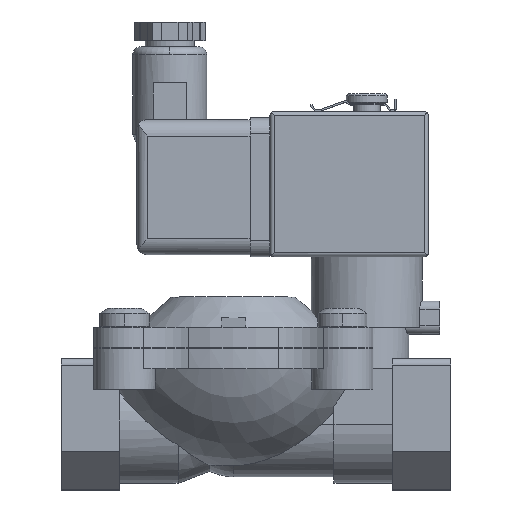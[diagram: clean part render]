
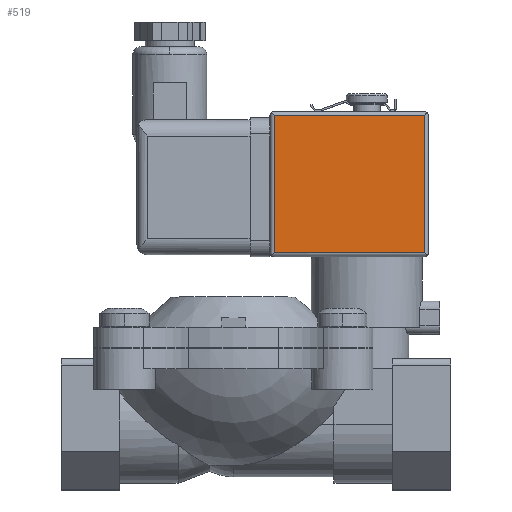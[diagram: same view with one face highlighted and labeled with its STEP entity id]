
A CAD part, top view. The second image highlights one B-rep face of the part: STEP entity #519.
In plain terms, the highlighted planar face has unit normal (0, 0, 1).
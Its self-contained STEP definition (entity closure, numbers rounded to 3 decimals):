
#519=ADVANCED_FACE('',(#1581),#1582,.T.);
#1581=FACE_OUTER_BOUND('',#2823,.T.);
#1582=PLANE('',#2824);
#2823=EDGE_LOOP('',(#6935,#6936,#6937,#6938));
#2824=AXIS2_PLACEMENT_3D('',#6939,#6940,#6941);
#6935=ORIENTED_EDGE('',*,*,#9564,.T.);
#6936=ORIENTED_EDGE('',*,*,#9572,.F.);
#6937=ORIENTED_EDGE('',*,*,#9550,.F.);
#6938=ORIENTED_EDGE('',*,*,#9573,.T.);
#6939=CARTESIAN_POINT('',(70.2,58.5,15.0));
#6940=DIRECTION('',(0.0,0.0,1.0));
#6941=DIRECTION('',(1.0,0.0,0.0));
#9550=EDGE_CURVE('',#12043,#12034,#12045,.T.);
#9564=EDGE_CURVE('',#12073,#12071,#12074,.T.);
#9572=EDGE_CURVE('',#12034,#12071,#12087,.T.);
#9573=EDGE_CURVE('',#12043,#12073,#12088,.T.);
#12034=VERTEX_POINT('',#18149);
#12043=VERTEX_POINT('',#18159);
#12045=LINE('',#18161,#18162);
#12071=VERTEX_POINT('',#18192);
#12073=VERTEX_POINT('',#18194);
#12074=LINE('',#18195,#18196);
#12087=LINE('',#18211,#18212);
#12088=LINE('',#18213,#18214);
#18149=CARTESIAN_POINT('',(51.9,75.2,15.0));
#18159=CARTESIAN_POINT('',(51.9,41.8,15.0));
#18161=CARTESIAN_POINT('',(51.9,58.5,15.0));
#18162=VECTOR('',#21918,1.0);
#18192=CARTESIAN_POINT('',(88.5,75.2,15.0));
#18194=CARTESIAN_POINT('',(88.5,41.8,15.0));
#18195=CARTESIAN_POINT('',(88.5,58.5,15.0));
#18196=VECTOR('',#21950,1.0);
#18211=CARTESIAN_POINT('',(70.2,75.2,15.0));
#18212=VECTOR('',#21968,1.0);
#18213=CARTESIAN_POINT('',(70.2,41.8,15.0));
#18214=VECTOR('',#21969,1.0);
#21918=DIRECTION('',(0.0,1.0,0.));
#21950=DIRECTION('',(0.0,1.0,0.));
#21968=DIRECTION('',(1.0,0.0,0.));
#21969=DIRECTION('',(1.0,0.0,0.));
